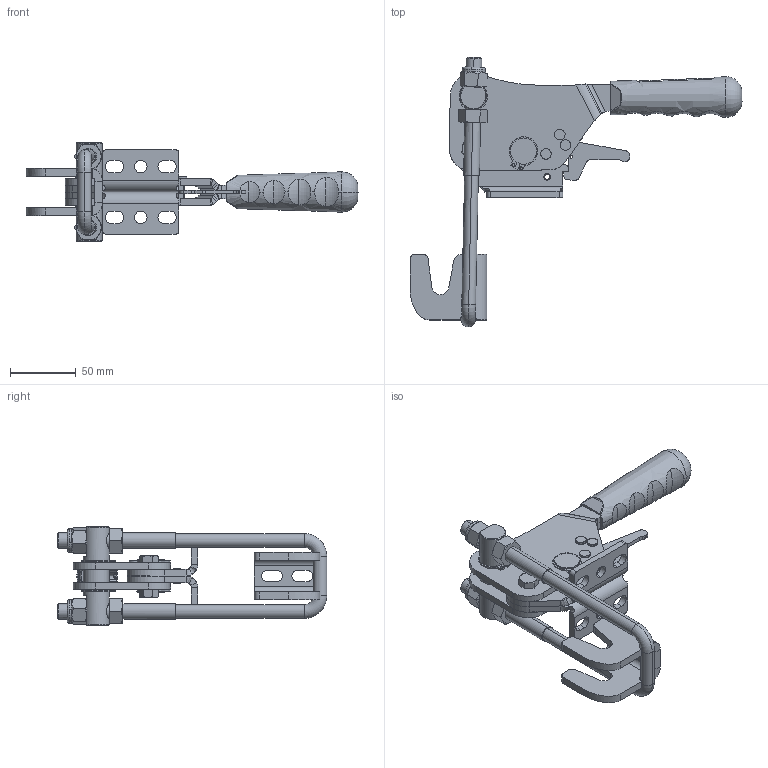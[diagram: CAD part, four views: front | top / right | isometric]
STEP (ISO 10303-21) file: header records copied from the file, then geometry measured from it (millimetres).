
FILE_DESCRIPTION (( 'STEP AP203' ), '1' );
FILE_NAME ('13212_Y_K.STEP', '2022-11-30T12:11:34', ( '' ), ( '' ), 'SwSTEP 2.0', 'SolidWorks 2023', '' );
FILE_SCHEMA (( 'CONFIG_CONTROL_DESIGN' ));
Length unit declared in the file: millimetre
Products named in the file (19): mandal 1; mandal 2; circlips_o20-uni_7435; 1391_Kanca mili_Varsayılan; 13210 Gövde; autolock_nut_h_fr_nf_e_25-409_m12_6_1; M8 Somun_Varsayılan; hexagon_bolt_jis_b_1180_c_m8_x25_Varsayılan; cap 20 malzeme ; Karşılık kancası m 12; Pim_5x22_Varsayılan; Aynalama13210 Gövde; 5-12-1330659; 07210-12; 13212_Y_K; C100_T_10x20(YENİ_TUTAMAK_10x20)_Varsayılan; 13210 H kolu; M12_U_Kanca_Varsayılan; Aynalama13210 H kolu
Assembly tree (24 placements, depth 2):
  mandal 2
  13212_Y_K
    13210 Gövde
    13210 H kolu
    Aynalama13210 Gövde
    1391_Kanca mili_Varsayılan
    mandal 1
    Pim_5x22_Varsayılan  x3
    M8 Somun_Varsayılan
    M12_U_Kanca_Varsayılan
    cap 20 malzeme 
    Karşılık kancası m 12
    Aynalama13210 H kolu
    07210-12  x2
    5-12-1330659
    autolock_nut_h_fr_nf_e_25-409_m12_6_1  x2
    circlips_o20-uni_7435  x4
    hexagon_bolt_jis_b_1180_c_m8_x25_Varsayılan
    C100_T_10x20(YENİ_TUTAMAK_10x20)_Varsayılan
Bounding box: 252.65 x 205.31 x 75 mm (x, y, z)
Volume: 275628.6 mm3; surface area: 125867.2 mm2
Topology: 24 solids, 24 shells, 874 faces, 2196 edges, 1397 vertices
Faces by surface type: plane 438, cylinder 288, cone 76, torus 40, bspline 32
Entity records: 25588 total; most frequent: CARTESIAN_POINT 7564, ORIENTED_EDGE 3322, DIRECTION 3269, EDGE_CURVE 1661, AXIS2_PLACEMENT_3D 1190, VERTEX_POINT 1059, LINE 889, VECTOR 889
